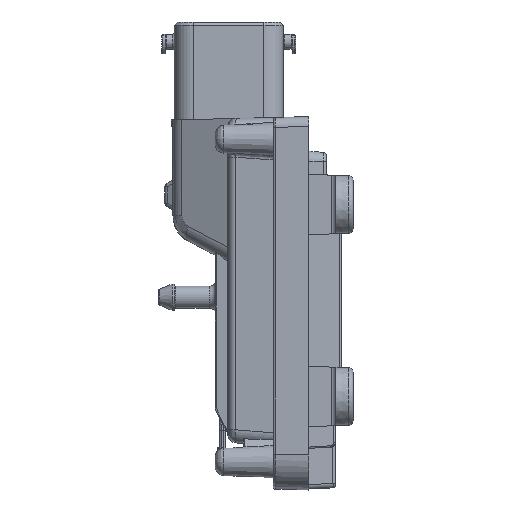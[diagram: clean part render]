
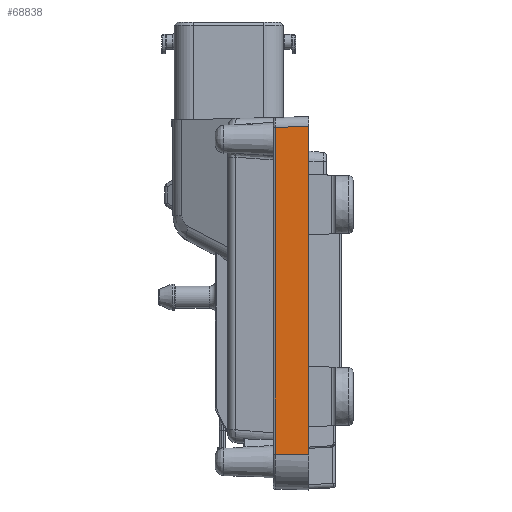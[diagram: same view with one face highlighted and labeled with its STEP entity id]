
A CAD part, left-side view. The second image highlights one B-rep face of the part: STEP entity #68838.
In plain terms, the highlighted planar face has unit normal (-1, 0.024, 0) as drawn and (-1, 0, 0.024) by its records, which use the part's own axes.
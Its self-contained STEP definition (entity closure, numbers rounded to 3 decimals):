
#3891=PLANE('',#74863);
#7548=FACE_OUTER_BOUND('',#11414,.T.);
#11414=EDGE_LOOP('',(#63894,#63895,#63896,#63897));
#18607=LINE('',#117963,#25924);
#18658=LINE('',#118239,#25975);
#18724=LINE('',#118492,#26041);
#18731=LINE('',#118513,#26048);
#25924=VECTOR('',#93632,1.);
#25975=VECTOR('',#93799,1.);
#26041=VECTOR('',#93991,1.);
#26048=VECTOR('',#94010,1.);
#34121=VERTEX_POINT('',#117958);
#34122=VERTEX_POINT('',#117962);
#34181=VERTEX_POINT('',#118238);
#34247=VERTEX_POINT('',#118491);
#43973=EDGE_CURVE('',#34122,#34121,#18607,.T.);
#44060=EDGE_CURVE('',#34181,#34122,#18658,.T.);
#44160=EDGE_CURVE('',#34181,#34247,#18724,.T.);
#44171=EDGE_CURVE('',#34121,#34247,#18731,.T.);
#63894=ORIENTED_EDGE('',*,*,#43973,.T.);
#63895=ORIENTED_EDGE('',*,*,#44171,.T.);
#63896=ORIENTED_EDGE('',*,*,#44160,.F.);
#63897=ORIENTED_EDGE('',*,*,#44060,.T.);
#68838=ADVANCED_FACE('',(#7548),#3891,.T.);
#74863=AXIS2_PLACEMENT_3D('',#118512,#94008,#94009);
#93632=DIRECTION('',(0.,1.,0.));
#93799=DIRECTION('',(0.024,0.024,0.999));
#93991=DIRECTION('',(0.,1.,0.));
#94008=DIRECTION('center_axis',(-1.,0.,
0.024));
#94009=DIRECTION('ref_axis',(0.024,0.,1.));
#94010=DIRECTION('',(-0.024,0.024,-0.999));
#117958=CARTESIAN_POINT('',(251.029,38.144,7.612));
#117962=CARTESIAN_POINT('',(251.029,-36.437,7.612));
#117963=CARTESIAN_POINT('',(251.029,38.132,7.612));
#118238=CARTESIAN_POINT('',(250.843,-36.623,0.));
#118239=CARTESIAN_POINT('',(251.039,-36.426,8.045));
#118491=CARTESIAN_POINT('',(250.843,38.33,0.));
#118492=CARTESIAN_POINT('',(250.843,-30.872,0.));
#118512=CARTESIAN_POINT('Origin',(250.843,3.728,0.));
#118513=CARTESIAN_POINT('',(250.863,38.31,0.845));
